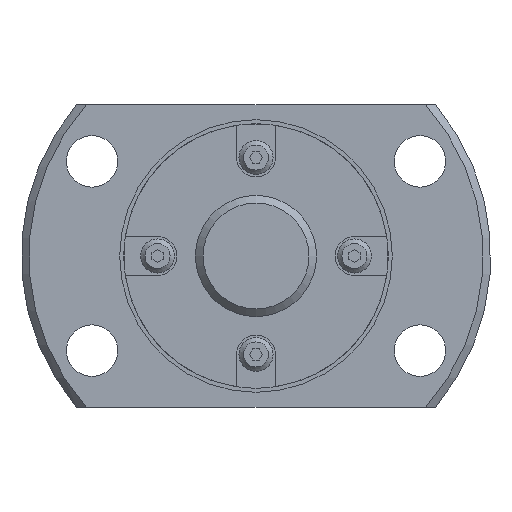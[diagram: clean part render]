
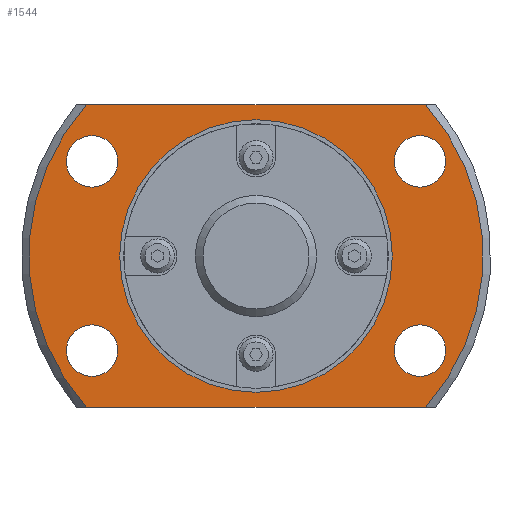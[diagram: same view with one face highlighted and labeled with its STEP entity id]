
A CAD part, left-side view. The second image highlights one B-rep face of the part: STEP entity #1544.
In plain terms, the highlighted planar face has unit normal (-1, 0, 0).
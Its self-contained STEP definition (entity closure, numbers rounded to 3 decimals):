
#97=CIRCLE('',#1685,15.);
#118=CIRCLE('',#1714,8.725);
#119=CIRCLE('',#1716,1.7);
#120=CIRCLE('',#1717,1.7);
#121=CIRCLE('',#1718,1.7);
#122=CIRCLE('',#1719,1.7);
#123=CIRCLE('',#1720,15.);
#283=ORIENTED_EDGE('',*,*,#651,.T.);
#284=ORIENTED_EDGE('',*,*,#652,.T.);
#285=ORIENTED_EDGE('',*,*,#653,.T.);
#286=ORIENTED_EDGE('',*,*,#654,.T.);
#287=ORIENTED_EDGE('',*,*,#608,.F.);
#288=ORIENTED_EDGE('',*,*,#655,.T.);
#289=ORIENTED_EDGE('',*,*,#656,.F.);
#290=ORIENTED_EDGE('',*,*,#657,.T.);
#291=ORIENTED_EDGE('',*,*,#650,.T.);
#608=EDGE_CURVE('',#804,#805,#97,.T.);
#650=EDGE_CURVE('',#841,#841,#118,.T.);
#651=EDGE_CURVE('',#842,#842,#119,.T.);
#652=EDGE_CURVE('',#843,#843,#120,.T.);
#653=EDGE_CURVE('',#844,#844,#121,.T.);
#654=EDGE_CURVE('',#845,#845,#122,.T.);
#655=EDGE_CURVE('',#804,#846,#953,.T.);
#656=EDGE_CURVE('',#847,#846,#123,.T.);
#657=EDGE_CURVE('',#847,#805,#954,.T.);
#804=VERTEX_POINT('',#2421);
#805=VERTEX_POINT('',#2423);
#841=VERTEX_POINT('',#2518);
#842=VERTEX_POINT('',#2521);
#843=VERTEX_POINT('',#2523);
#844=VERTEX_POINT('',#2525);
#845=VERTEX_POINT('',#2527);
#846=VERTEX_POINT('',#2529);
#847=VERTEX_POINT('',#2531);
#953=LINE('',#2528,#1075);
#954=LINE('',#2532,#1076);
#1075=VECTOR('',#2030,1000.);
#1076=VECTOR('',#2033,1000.);
#1198=EDGE_LOOP('',(#283));
#1199=EDGE_LOOP('',(#284));
#1200=EDGE_LOOP('',(#285));
#1201=EDGE_LOOP('',(#286));
#1202=EDGE_LOOP('',(#287,#288,#289,#290));
#1203=EDGE_LOOP('',(#291));
#1350=FACE_BOUND('',#1198,.T.);
#1351=FACE_BOUND('',#1199,.T.);
#1352=FACE_BOUND('',#1200,.T.);
#1353=FACE_BOUND('',#1201,.T.);
#1354=FACE_BOUND('',#1202,.T.);
#1355=FACE_BOUND('',#1203,.T.);
#1466=PLANE('',#1715);
#1544=ADVANCED_FACE('',(#1350,#1351,#1352,#1353,#1354,#1355),#1466,.F.);
#1685=AXIS2_PLACEMENT_3D('',#2422,#1942,#1943);
#1714=AXIS2_PLACEMENT_3D('',#2517,#2018,#2019);
#1715=AXIS2_PLACEMENT_3D('',#2519,#2020,#2021);
#1716=AXIS2_PLACEMENT_3D('',#2520,#2022,#2023);
#1717=AXIS2_PLACEMENT_3D('',#2522,#2024,#2025);
#1718=AXIS2_PLACEMENT_3D('',#2524,#2026,#2027);
#1719=AXIS2_PLACEMENT_3D('',#2526,#2028,#2029);
#1720=AXIS2_PLACEMENT_3D('',#2530,#2031,#2032);
#1942=DIRECTION('',(1.,0.,0.));
#1943=DIRECTION('',(0.,0.,-1.));
#2018=DIRECTION('',(1.,0.,0.));
#2019=DIRECTION('',(0.,0.,-1.));
#2020=DIRECTION('',(1.,0.,0.));
#2021=DIRECTION('',(0.,0.,-1.));
#2022=DIRECTION('',(1.,0.,0.));
#2023=DIRECTION('',(0.,0.,-1.));
#2024=DIRECTION('',(1.,0.,0.));
#2025=DIRECTION('',(0.,0.,-1.));
#2026=DIRECTION('',(1.,0.,0.));
#2027=DIRECTION('',(0.,0.,-1.));
#2028=DIRECTION('',(1.,0.,0.));
#2029=DIRECTION('',(0.,0.,-1.));
#2030=DIRECTION('',(0.,-1.,0.));
#2031=DIRECTION('',(1.,0.,0.));
#2032=DIRECTION('',(0.,0.,-1.));
#2033=DIRECTION('',(0.,1.,0.));
#2421=CARTESIAN_POINT('',(10.,11.18,-10.));
#2422=CARTESIAN_POINT('',(10.,0.,0.));
#2423=CARTESIAN_POINT('',(10.,11.18,10.));
#2517=CARTESIAN_POINT('',(10.,0.,0.));
#2518=CARTESIAN_POINT('',(10.,0.,-8.725));
#2519=CARTESIAN_POINT('',(10.,8.725,0.));
#2520=CARTESIAN_POINT('',(10.,-10.825,-6.25));
#2521=CARTESIAN_POINT('',(10.,-10.825,-7.95));
#2522=CARTESIAN_POINT('',(10.,-10.825,6.25));
#2523=CARTESIAN_POINT('',(10.,-10.825,4.55));
#2524=CARTESIAN_POINT('',(10.,10.825,-6.25));
#2525=CARTESIAN_POINT('',(10.,10.825,-7.95));
#2526=CARTESIAN_POINT('',(10.,10.825,6.25));
#2527=CARTESIAN_POINT('',(10.,10.825,4.55));
#2528=CARTESIAN_POINT('',(10.,8.725,-10.));
#2529=CARTESIAN_POINT('',(10.,-11.18,-10.));
#2530=CARTESIAN_POINT('',(10.,0.,0.));
#2531=CARTESIAN_POINT('',(10.,-11.18,10.));
#2532=CARTESIAN_POINT('',(10.,8.725,10.));
